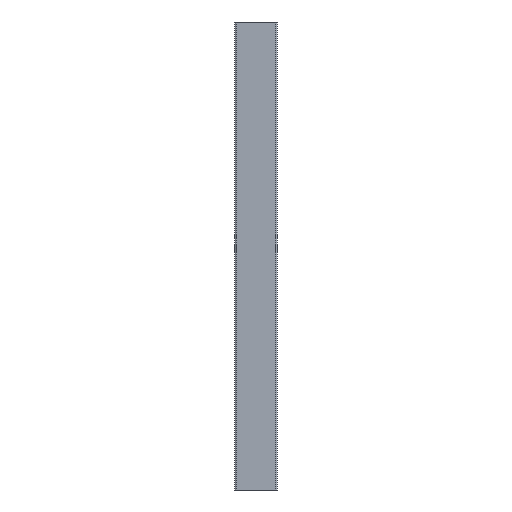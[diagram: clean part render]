
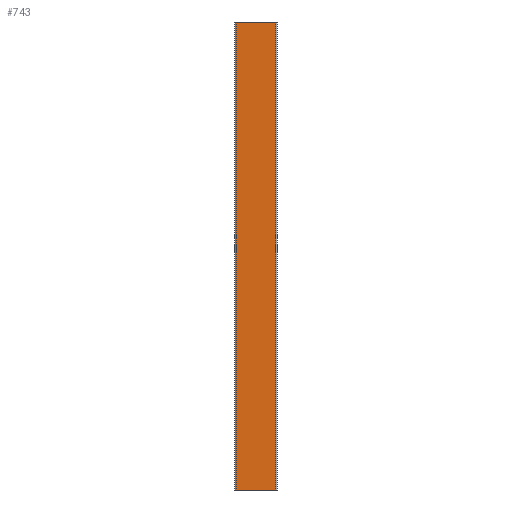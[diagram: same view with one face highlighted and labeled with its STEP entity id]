
A CAD part, left-side view. The second image highlights one B-rep face of the part: STEP entity #743.
In plain terms, the highlighted planar face has unit normal (-1, 0, 0).
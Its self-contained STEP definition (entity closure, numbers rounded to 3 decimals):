
#187 = VERTEX_POINT ( 'NONE', #5159 ) ;
#317 = EDGE_CURVE ( 'NONE', #2786, #1522, #1403, .T. ) ;
#601 = VERTEX_POINT ( 'NONE', #2832 ) ;
#743 = ADVANCED_FACE ( 'NONE', ( #4226 ), #5920, .T. ) ;
#856 = CARTESIAN_POINT ( 'NONE',  ( -22.5, -42., 500. ) ) ;
#1028 = DIRECTION ( 'NONE',  ( -1., 0., 0. ) ) ;
#1063 = CARTESIAN_POINT ( 'NONE',  ( -22.5, 45., -500. ) ) ;
#1265 = EDGE_CURVE ( 'NONE', #187, #601, #3440, .T. ) ;
#1403 = LINE ( 'NONE', #3017, #2172 ) ;
#1436 = ORIENTED_EDGE ( 'NONE', *, *, #1265, .T. ) ;
#1492 = VECTOR ( 'NONE', #2232, 1000. ) ;
#1522 = VERTEX_POINT ( 'NONE', #856 ) ;
#1524 = CARTESIAN_POINT ( 'NONE',  ( -22.5, -42., -500. ) ) ;
#1556 = LINE ( 'NONE', #1524, #2653 ) ;
#1615 = DIRECTION ( 'NONE',  ( 0., -1., 0. ) ) ;
#2172 = VECTOR ( 'NONE', #4713, 1000. ) ;
#2232 = DIRECTION ( 'NONE',  ( 0., -1., 0. ) ) ;
#2479 = DIRECTION ( 'NONE',  ( 0., 0., -1. ) ) ;
#2653 = VECTOR ( 'NONE', #3763, 1000. ) ;
#2704 = CARTESIAN_POINT ( 'NONE',  ( -22.5, 42., 500. ) ) ;
#2786 = VERTEX_POINT ( 'NONE', #2704 ) ;
#2832 = CARTESIAN_POINT ( 'NONE',  ( -22.5, -42., -500. ) ) ;
#2848 = ORIENTED_EDGE ( 'NONE', *, *, #317, .F. ) ;
#3017 = CARTESIAN_POINT ( 'NONE',  ( -22.5, 45., 500. ) ) ;
#3204 = AXIS2_PLACEMENT_3D ( 'NONE', #1063, #1028, #1615 ) ;
#3440 = LINE ( 'NONE', #5725, #1492 ) ;
#3548 = LINE ( 'NONE', #4105, #7105 ) ;
#3662 = EDGE_CURVE ( 'NONE', #601, #1522, #1556, .T. ) ;
#3763 = DIRECTION ( 'NONE',  ( 0., 0., 1. ) ) ;
#4105 = CARTESIAN_POINT ( 'NONE',  ( -22.5, 42., -500. ) ) ;
#4200 = ORIENTED_EDGE ( 'NONE', *, *, #6415, .T. ) ;
#4226 = FACE_OUTER_BOUND ( 'NONE', #5304, .T. ) ;
#4713 = DIRECTION ( 'NONE',  ( 0., -1., 0. ) ) ;
#4714 = ORIENTED_EDGE ( 'NONE', *, *, #3662, .T. ) ;
#5159 = CARTESIAN_POINT ( 'NONE',  ( -22.5, 42., -500. ) ) ;
#5304 = EDGE_LOOP ( 'NONE', ( #1436, #4714, #2848, #4200 ) ) ;
#5725 = CARTESIAN_POINT ( 'NONE',  ( -22.5, 45., -500. ) ) ;
#5920 = PLANE ( 'NONE',  #3204 ) ;
#6415 = EDGE_CURVE ( 'NONE', #2786, #187, #3548, .T. ) ;
#7105 = VECTOR ( 'NONE', #2479, 1000. ) ;
